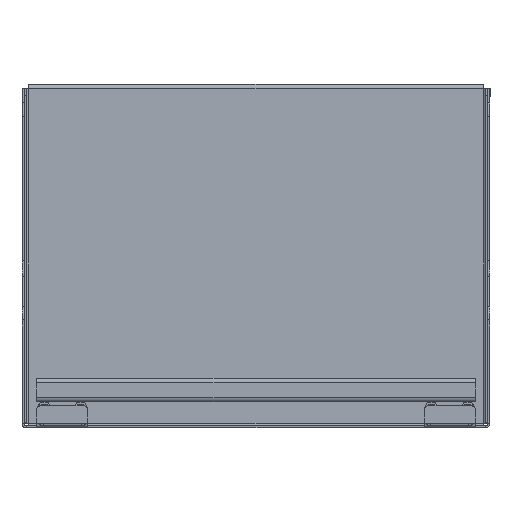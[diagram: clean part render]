
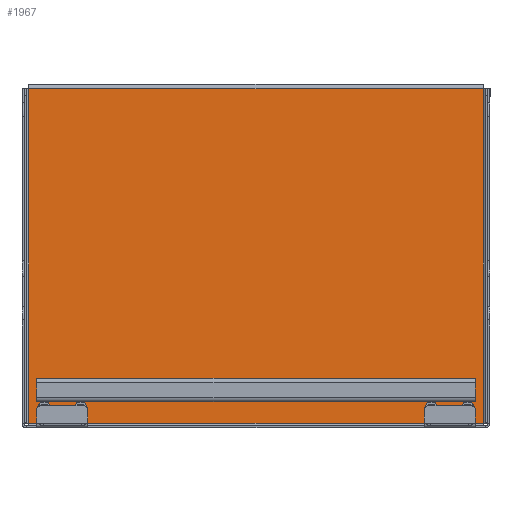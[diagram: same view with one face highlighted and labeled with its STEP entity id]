
A CAD part, front view. The second image highlights one B-rep face of the part: STEP entity #1967.
In plain terms, the highlighted planar face has unit normal (0, -1, 0.018).
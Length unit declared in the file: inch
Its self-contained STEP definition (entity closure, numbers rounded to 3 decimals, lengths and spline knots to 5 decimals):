
#315 = ORIENTED_EDGE ( 'NONE', *, *, #5304, .T. ) ;
#317 = ORIENTED_EDGE ( 'NONE', *, *, #5626, .F. ) ;
#318 = ORIENTED_EDGE ( 'NONE', *, *, #5617, .F. ) ;
#361 = ORIENTED_EDGE ( 'NONE', *, *, #5623, .F. ) ;
#416 = CARTESIAN_POINT ( 'NONE',  ( -7.76893, 7.92936, 0.0786 ) ) ;
#446 = CARTESIAN_POINT ( 'NONE',  ( 7.76893, 8.12919, 11.52686 ) ) ;
#478 = CARTESIAN_POINT ( 'NONE',  ( -7.76893, 8.12919, 11.52686 ) ) ;
#883 = CARTESIAN_POINT ( 'NONE',  ( 7.92093, 8.12919, 11.52686 ) ) ;
#884 = DIRECTION ( 'NONE',  ( -1., 0., 0. ) ) ;
#1487 = DIRECTION ( 'NONE',  ( 0., 1., -0.017 ) ) ;
#1499 = DIRECTION ( 'NONE',  ( 0., 0.017, 1. ) ) ;
#1967 = ADVANCED_FACE ( 'NONE', ( #5971 ), #3810, .F. ) ;
#2139 = LINE ( 'NONE', #2526, #2152 ) ;
#2144 = LINE ( 'NONE', #2509, #2145 ) ;
#2145 = VECTOR ( 'NONE', #2510, 39.37008 ) ;
#2149 = VECTOR ( 'NONE', #2534, 39.37008 ) ;
#2152 = VECTOR ( 'NONE', #2527, 39.37008 ) ;
#2157 = LINE ( 'NONE', #2521, #2149 ) ;
#2509 = CARTESIAN_POINT ( 'NONE',  ( 8., 7.92936, 0.0786 ) ) ;
#2510 = DIRECTION ( 'NONE',  ( -1., 0., 0. ) ) ;
#2521 = CARTESIAN_POINT ( 'NONE',  ( -7.76893, 7.92936, 0.0786 ) ) ;
#2526 = CARTESIAN_POINT ( 'NONE',  ( 7.76893, 8.12919, 11.52686 ) ) ;
#2527 = DIRECTION ( 'NONE',  ( 0., -0.017, -1. ) ) ;
#2534 = DIRECTION ( 'NONE',  ( 0., 0.017, 1. ) ) ;
#3051 = VECTOR ( 'NONE', #884, 39.37008 ) ;
#3058 = LINE ( 'NONE', #883, #3051 ) ;
#3588 = VERTEX_POINT ( 'NONE', #4586 ) ;
#3606 = VERTEX_POINT ( 'NONE', #416 ) ;
#3645 = VERTEX_POINT ( 'NONE', #446 ) ;
#3706 = VERTEX_POINT ( 'NONE', #478 ) ;
#3729 = CARTESIAN_POINT ( 'NONE',  ( -8., 7.92799, 0. ) ) ;
#3810 = PLANE ( 'NONE',  #5663 ) ;
#4586 = CARTESIAN_POINT ( 'NONE',  ( 7.76893, 7.92936, 0.0786 ) ) ;
#5304 = EDGE_CURVE ( 'NONE', #3645, #3706, #3058, .T. ) ;
#5617 = EDGE_CURVE ( 'NONE', #3588, #3606, #2144, .T. ) ;
#5623 = EDGE_CURVE ( 'NONE', #3645, #3588, #2139, .T. ) ;
#5626 = EDGE_CURVE ( 'NONE', #3606, #3706, #2157, .T. ) ;
#5663 = AXIS2_PLACEMENT_3D ( 'NONE', #3729, #1487, #1499 ) ;
#5745 = EDGE_LOOP ( 'NONE', ( #317, #318, #361, #315 ) ) ;
#5971 = FACE_OUTER_BOUND ( 'NONE', #5745, .T. ) ;
